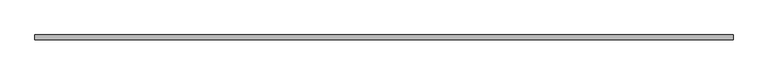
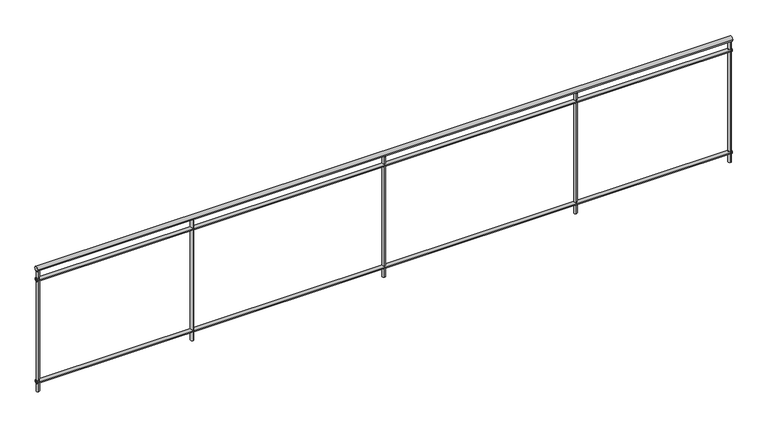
"""IFC4 building model written with IfcOpenShell, lengths in millimetres: railing geometry, バルコニー手摺."""

import ifcopenshell
import ifcopenshell.guid

model = None  # the IFC model being written
_history = None  # IfcOwnerHistory: only IFC2X3 demands one
_inside = {}  # id of a spatial element -> (the spatial element, [elements in it])
_under = {}  # id of a project, library or spatial element -> (it, [spatial elements below it])
_declared = {}  # id of a project -> (the project, [libraries it declares])
_typed = {}  # id of a type object -> (the type object, [elements of that type])
_made_of = {}  # id of a material, layer set ... -> (it, [elements and type objects made of it])


def new_model(schema):
    """Start an empty IFC model of exactly this schema.

    Asked for "IFC4X3", IfcOpenShell would pick the latest addendum, in which some entities
    have other attributes; the version numbers below select the first issue.
    IFC2X3 requires an IfcOwnerHistory on every rooted entity: one is made here for all.
    """
    global model, _history
    if schema == "IFC4X3":
        model = ifcopenshell.file(schema_version=(4, 3, 0, 0))
    else:
        model = ifcopenshell.file(schema=schema)
    _inside.clear()
    _under.clear()
    _declared.clear()
    _typed.clear()
    _made_of.clear()
    _history = None
    if model.schema == "IFC2X3":
        org = make("IfcOrganization", Name="unknown")
        user = make(
            "IfcPersonAndOrganization",
            ThePerson=make("IfcPerson", FamilyName="unknown"),
            TheOrganization=org,
        )
        app = make(
            "IfcApplication",
            ApplicationDeveloper=org,
            Version="unknown",
            ApplicationFullName="unknown",
            ApplicationIdentifier="unknown",
        )
        _history = make(
            "IfcOwnerHistory",
            OwningUser=user,
            OwningApplication=app,
            ChangeAction="ADDED",
            CreationDate=0,
        )
    return model


def make(cls, **values):
    """One entity of the class cls with the attributes given. An attribute that is None is left unset."""
    return model.create_entity(
        cls, **{name: value for name, value in values.items() if value is not None}
    )


def rooted(cls, **values):
    """An entity with a GlobalId (a new one), such as an element, a storey or a relation."""
    return make(cls, GlobalId=ifcopenshell.guid.new(), OwnerHistory=_history, **values)


def si_unit(unit_type, name, prefix=None):
    """IfcSIUnit, for example si_unit("LENGTHUNIT", "METRE", prefix="MILLI")."""
    return make("IfcSIUnit", UnitType=unit_type, Prefix=prefix, Name=name)


def assignment(units):
    """IfcUnitAssignment: the units of a project."""
    return None if units is None else make("IfcUnitAssignment", Units=units)


def point(xyz):
    """IfcCartesianPoint."""
    return None if xyz is None else make("IfcCartesianPoint", Coordinates=xyz)


def direction(xyz):
    """IfcDirection."""
    return None if xyz is None else make("IfcDirection", DirectionRatios=xyz)


def frame(location, z_axis=None, x_axis=None):
    """IfcAxis2Placement3D, a coordinate frame: its origin and axes. An axis left out is left unset."""
    return make(
        "IfcAxis2Placement3D",
        Location=point(location),
        Axis=direction(z_axis),
        RefDirection=direction(x_axis),
    )


def frame_2d(location, x_axis=None):
    """IfcAxis2Placement2D, a coordinate frame in the plane: its origin and x axis."""
    return make(
        "IfcAxis2Placement2D", Location=point(location), RefDirection=direction(x_axis)
    )


def origin():
    """The frame at (0, 0, 0) with its axes left unset."""
    return frame((0.0, 0.0, 0.0))


def place(relative_to, where):
    """IfcLocalPlacement: puts the frame where relative to a parent placement (None: the world)."""
    return make(
        "IfcLocalPlacement", PlacementRelTo=relative_to, RelativePlacement=where
    )


def context(
    kind, dimensions, precision=None, world=None, true_north=None, identifier=None
):
    """IfcGeometricRepresentationContext, for example the 3D "Model" context."""
    return make(
        "IfcGeometricRepresentationContext",
        ContextIdentifier=identifier,
        ContextType=kind,
        CoordinateSpaceDimension=dimensions,
        Precision=precision,
        WorldCoordinateSystem=world,
        TrueNorth=true_north,
    )


def project(units=None, contexts=None):
    """IfcProject with its units and contexts."""
    return rooted(
        "IfcProject",
        Name="project",
        RepresentationContexts=contexts,
        UnitsInContext=assignment(units),
    )


def spatial(cls, under=None, at=None, **own):
    """A site, building, storey or space (cls), placed at a placement, below another one or the project."""
    s = rooted(cls, ObjectPlacement=at, **own)
    if under is not None:
        _under.setdefault(under.id(), (under, []))[1].append(s)
    return s


def circle_curve(where, radius):
    """IfcCircle in the frame where."""
    return make("IfcCircle", Position=where, Radius=radius)


def trimmed(basis, trim1, trim2, sense, master):
    """IfcTrimmedCurve: the piece of a basis curve between two trims."""
    return make(
        "IfcTrimmedCurve",
        BasisCurve=basis,
        Trim1=trim1,
        Trim2=trim2,
        SenseAgreement=sense,
        MasterRepresentation=master,
    )


def segment(curve, same_sense, transition):
    """IfcCompositeCurveSegment."""
    return make(
        "IfcCompositeCurveSegment",
        Transition=transition,
        SameSense=same_sense,
        ParentCurve=curve,
    )


def composite_curve(segments, self_intersect=None):
    """IfcCompositeCurve: segments joined end to end."""
    return make("IfcCompositeCurve", Segments=segments, SelfIntersect=self_intersect)


def outline(outer, holes=None, kind="AREA"):
    """IfcArbitraryClosedProfileDef: a profile drawn as a closed curve; with holes, ...WithVoids."""
    if holes is None:
        return make("IfcArbitraryClosedProfileDef", ProfileType=kind, OuterCurve=outer)
    return make(
        "IfcArbitraryProfileDefWithVoids",
        ProfileType=kind,
        OuterCurve=outer,
        InnerCurves=holes,
    )


def extrude(swept, where, along, depth):
    """IfcExtrudedAreaSolid: the profile swept, set in the frame where, extruded along a direction by depth."""
    return make(
        "IfcExtrudedAreaSolid",
        SweptArea=swept,
        Position=where,
        ExtrudedDirection=direction(along),
        Depth=depth,
    )


def shape(context_of_items, identifier, shape_type, items):
    """IfcShapeRepresentation: the items that make up one representation, for example the "Body"."""
    return make(
        "IfcShapeRepresentation",
        ContextOfItems=context_of_items,
        RepresentationIdentifier=identifier,
        RepresentationType=shape_type,
        Items=items,
    )


def source(mapping_origin, context_of_items, identifier, shape_type, items):
    """IfcRepresentationMap: a shape defined once, which mapped items show again and again."""
    return make(
        "IfcRepresentationMap",
        MappingOrigin=mapping_origin,
        MappedRepresentation=shape(context_of_items, identifier, shape_type, items),
    )


def transform(
    local_origin,
    x_axis=None,
    y_axis=None,
    z_axis=None,
    scale=None,
    scale2=None,
    scale3=None,
    uniform=True,
):
    """IfcCartesianTransformationOperator3D, or its non-uniform kind. x_axis, y_axis, z_axis: its Axis1, 2, 3."""
    if uniform:
        return make(
            "IfcCartesianTransformationOperator3D",
            Axis1=direction(x_axis),
            Axis2=direction(y_axis),
            LocalOrigin=point(local_origin),
            Scale=scale,
            Axis3=direction(z_axis),
        )
    return make(
        "IfcCartesianTransformationOperator3DnonUniform",
        Axis1=direction(x_axis),
        Axis2=direction(y_axis),
        LocalOrigin=point(local_origin),
        Scale=scale,
        Axis3=direction(z_axis),
        Scale2=scale2,
        Scale3=scale3,
    )


def mapped(mapping_source, mapping_target):
    """IfcMappedItem: shows the shape of a source again, moved by a transform."""
    return make(
        "IfcMappedItem", MappingSource=mapping_source, MappingTarget=mapping_target
    )


def made_of(thing, what):
    """Note that an element or type object is made of a material, layer set ...; save() writes the relation."""
    if what is not None:
        _made_of.setdefault(what.id(), (what, []))[1].append(thing)
    return thing


def element(
    cls,
    number,
    at=None,
    inside=None,
    cuts=None,
    type_object=None,
    material=None,
    context=None,
    identifier="Body",
    shape_type=None,
    held_by="IfcProductDefinitionShape",
    body=None,
    shapes=None,
    **own,
):
    """One element of the class cls, such as IfcWall. Its Tag is "e" and its number.

    at: its placement. inside: the storey or other place that contains it. cuts: it is an
    opening in that element (IfcRelVoidsElement). A single representation is given by context,
    identifier, shape_type and body (its items); several are given by shapes. held_by: the class
    of the entity that holds the representations. save() writes the other relations.
    """
    e = rooted(cls, Tag="e%d" % number, ObjectPlacement=at, **own)
    if body is not None:
        shapes = [shape(context, identifier, shape_type, body)]
    if shapes is not None:
        e.Representation = make(held_by, Representations=shapes)
    if inside is not None:
        _inside.setdefault(inside.id(), (inside, []))[1].append(e)
    if cuts is not None:
        rooted(
            "IfcRelVoidsElement", RelatingBuildingElement=cuts, RelatedOpeningElement=e
        )
    if type_object is not None:
        _typed.setdefault(type_object.id(), (type_object, []))[1].append(e)
    return made_of(e, material)


def aggregate(whole, parts):
    """IfcRelAggregates: a whole, such as a stair, and the parts it consists of."""
    return rooted("IfcRelAggregates", RelatingObject=whole, RelatedObjects=parts)


def save(model, path):
    """Write the relations noted so far, then the file.

    IfcRelAggregates (storeys below a building ...), IfcRelContainedInSpatialStructure (elements
    in a storey), IfcRelDefinesByType, IfcRelAssociatesMaterial and IfcRelDeclares: one each for
    every whole, place, type object, material and project.
    """
    for whole, parts in _under.values():
        aggregate(whole, parts)
    for where, things in _inside.values():
        rooted(
            "IfcRelContainedInSpatialStructure",
            RelatedElements=things,
            RelatingStructure=where,
        )
    for kind, things in _typed.values():
        rooted("IfcRelDefinesByType", RelatedObjects=things, RelatingType=kind)
    for what, things in _made_of.values():
        rooted("IfcRelAssociatesMaterial", RelatedObjects=things, RelatingMaterial=what)
    for by, libraries in _declared.values():
        rooted("IfcRelDeclares", RelatingContext=by, RelatedDefinitions=libraries)
    model.write(path)


def railing_c7063d63(model_context):
    return source(origin(), model_context, "Body", "SweptSolid", [
        extrude(outline(composite_curve([segment(trimmed(circle_curve(frame_2d((10035.2598658, 1980.0)), 20.0), [point((10055.2598658, 1980.0))], [point((10015.2598658, 1980.0))], False, "CARTESIAN"), True, "CONTINUOUS"), segment(trimmed(circle_curve(frame_2d((10035.2598658, 1980.0)), 20.0), [point((10015.2598658, 1980.0))], [point((10055.2598658, 1980.0))], False, "CARTESIAN"), True, "CONTINUOUS")], self_intersect=False)), frame((-9895.6194095, 0.0, 0.0), z_axis=(1.0, 0.0, 0.0), x_axis=(0.0, 1.0, 0.0)), (0.0, 0.0, 1.0), 5800.0),
        extrude(outline(composite_curve([segment(trimmed(circle_curve(frame_2d((10035.2598658, 1885.0)), 15.0), [point((10050.2598658, 1885.0))], [point((10020.2598658, 1885.0))], False, "CARTESIAN"), True, "CONTINUOUS"), segment(trimmed(circle_curve(frame_2d((10035.2598658, 1885.0)), 15.0), [point((10020.2598658, 1885.0))], [point((10050.2598658, 1885.0))], False, "CARTESIAN"), True, "CONTINUOUS")], self_intersect=False)), frame((-9895.6194095, 0.0, 0.0), z_axis=(1.0, 0.0, 0.0), x_axis=(0.0, 1.0, 0.0)), (0.0, 0.0, 1.0), 5800.0),
        extrude(outline(composite_curve([segment(trimmed(circle_curve(frame_2d((10035.2598658, 985.0)), 15.0), [point((10050.2598658, 985.0))], [point((10020.2598658, 985.0))], False, "CARTESIAN"), True, "CONTINUOUS"), segment(trimmed(circle_curve(frame_2d((10035.2598658, 985.0)), 15.0), [point((10020.2598658, 985.0))], [point((10050.2598658, 985.0))], False, "CARTESIAN"), True, "CONTINUOUS")], self_intersect=False)), frame((-9895.6194095, 0.0, 0.0), z_axis=(1.0, 0.0, 0.0), x_axis=(0.0, 1.0, 0.0)), (0.0, 0.0, 1.0), 5800.0),
        extrude(outline(composite_curve([segment(trimmed(circle_curve(frame_2d((-5395.6194095, 10035.2598658)), 12.5), [point((-5395.6194095, 10047.7598658))], [point((-5395.6194095, 10022.7598658))], False, "CARTESIAN"), True, "CONTINUOUS"), segment(trimmed(circle_curve(frame_2d((-5395.6194095, 10035.2598658)), 12.5), [point((-5395.6194095, 10022.7598658))], [point((-5395.6194095, 10047.7598658))], False, "CARTESIAN"), True, "CONTINUOUS")], self_intersect=False)), frame((0.0, 0.0, 900.0), z_axis=(0.0, 0.0, 1.0), x_axis=(1.0, 0.0, 0.0)), (0.0, 0.0, 1.0), 1060.0),
        extrude(outline(composite_curve([segment(trimmed(circle_curve(frame_2d((-6995.6194095, 10035.2598658)), 12.5), [point((-6995.6194095, 10047.7598658))], [point((-6995.6194095, 10022.7598658))], False, "CARTESIAN"), True, "CONTINUOUS"), segment(trimmed(circle_curve(frame_2d((-6995.6194095, 10035.2598658)), 12.5), [point((-6995.6194095, 10022.7598658))], [point((-6995.6194095, 10047.7598658))], False, "CARTESIAN"), True, "CONTINUOUS")], self_intersect=False)), frame((0.0, 0.0, 900.0), z_axis=(0.0, 0.0, 1.0), x_axis=(1.0, 0.0, 0.0)), (0.0, 0.0, 1.0), 1060.0),
        extrude(outline(composite_curve([segment(trimmed(circle_curve(frame_2d((-8595.6194095, 10035.2598658)), 12.5), [point((-8595.6194095, 10047.7598658))], [point((-8595.6194095, 10022.7598658))], False, "CARTESIAN"), True, "CONTINUOUS"), segment(trimmed(circle_curve(frame_2d((-8595.6194095, 10035.2598658)), 12.5), [point((-8595.6194095, 10022.7598658))], [point((-8595.6194095, 10047.7598658))], False, "CARTESIAN"), True, "CONTINUOUS")], self_intersect=False)), frame((0.0, 0.0, 900.0), z_axis=(0.0, 0.0, 1.0), x_axis=(1.0, 0.0, 0.0)), (0.0, 0.0, 1.0), 1060.0),
        extrude(outline(composite_curve([segment(trimmed(circle_curve(frame_2d((-4107.8194095, 10035.2598658)), 12.5), [point((-4107.8194095, 10047.7598658))], [point((-4107.8194095, 10022.7598658))], False, "CARTESIAN"), True, "CONTINUOUS"), segment(trimmed(circle_curve(frame_2d((-4107.8194095, 10035.2598658)), 12.5), [point((-4107.8194095, 10022.7598658))], [point((-4107.8194095, 10047.7598658))], False, "CARTESIAN"), True, "CONTINUOUS")], self_intersect=False)), frame((0.0, 0.0, 900.0), z_axis=(0.0, 0.0, 1.0), x_axis=(1.0, 0.0, 0.0)), (0.0, 0.0, 1.0), 1060.0),
        extrude(outline(composite_curve([segment(trimmed(circle_curve(frame_2d((-9883.4194095, 10035.2598658)), 12.5), [point((-9883.4194095, 10047.7598658))], [point((-9883.4194095, 10022.7598658))], False, "CARTESIAN"), True, "CONTINUOUS"), segment(trimmed(circle_curve(frame_2d((-9883.4194095, 10035.2598658)), 12.5), [point((-9883.4194095, 10022.7598658))], [point((-9883.4194095, 10047.7598658))], False, "CARTESIAN"), True, "CONTINUOUS")], self_intersect=False)), frame((0.0, 0.0, 900.0), z_axis=(0.0, 0.0, 1.0), x_axis=(1.0, 0.0, 0.0)), (0.0, 0.0, 1.0), 1060.0),
    ])


if __name__ == "__main__":
    model = new_model("IFC4")
    model_context = context("Model", 3, world=origin())
    ifc_project = project(units=[si_unit("LENGTHUNIT", "METRE", prefix="MILLI")], contexts=[model_context])
    site = spatial("IfcSite", under=ifc_project)
    building = spatial("IfcBuilding", under=site)
    placement = place(None, origin())
    railing_shape = railing_c7063d63(model_context)
    element("IfcRailing", 1, ObjectType="バルコニー手摺", at=placement, inside=building, context=model_context, shape_type="MappedRepresentation", body=[
        mapped(railing_shape, transform((0.0, 0.0, 0.0), x_axis=(1.0, 0.0, 0.0), y_axis=(0.0, 1.0, 0.0), z_axis=(0.0, 0.0, 1.0))),
    ])
    save(model, "model.ifc")
